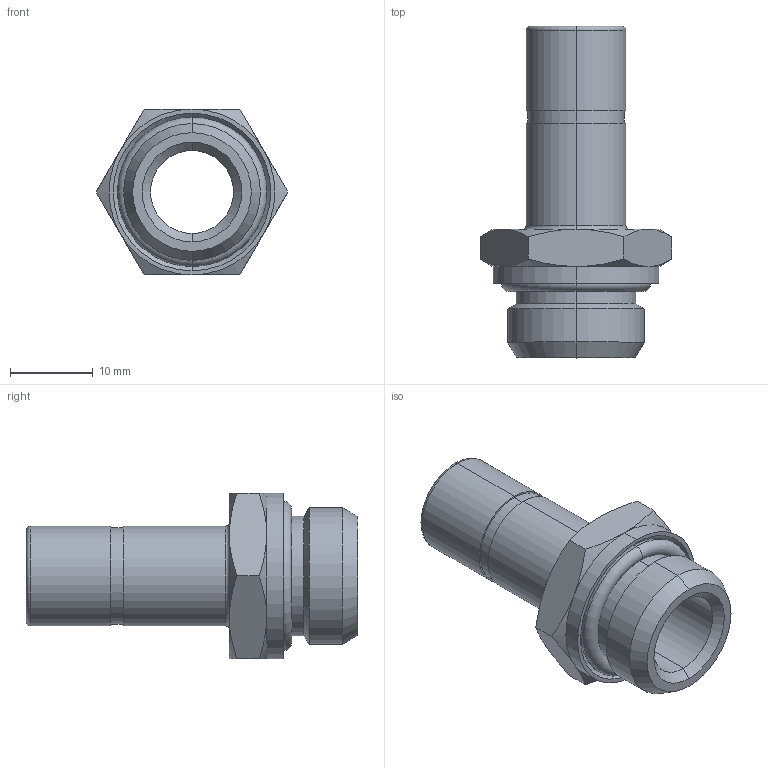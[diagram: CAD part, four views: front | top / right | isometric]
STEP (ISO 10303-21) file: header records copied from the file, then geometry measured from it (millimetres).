
FILE_DESCRIPTION (( 'STEP AP214' ), '1' );
FILE_NAME ('50600V0011.STEP', '2016-05-20T12:09:24', ( '' ), ( '' ), 'SwSTEP 2.0', 'SolidWorks 2016', '' );
FILE_SCHEMA (( 'AUTOMOTIVE_DESIGN' ));
Length unit declared in the file: millimetre
Products named in the file (1): 50600V0011
Bounding box: 23.09 x 40 x 20 mm (x, y, z)
Surface area: 3891 mm2 (no closed solid volume)
Topology: 0 solids, 2 shells, 57 faces, 120 edges, 70 vertices
Faces by surface type: cone 20, cylinder 14, plane 13, torus 10
Entity records: 2261 total; most frequent: CARTESIAN_POINT 384, DIRECTION 280, ORIENTED_EDGE 236, AXIS2_PLACEMENT_3D 126, EDGE_CURVE 120, VERTEX_POINT 70, CIRCLE 68, EDGE_LOOP 64
